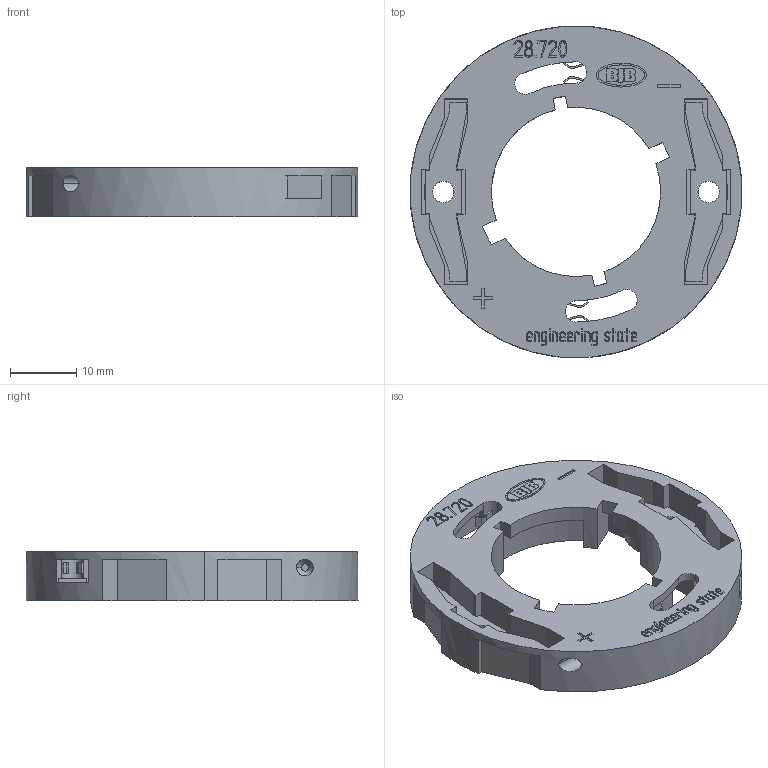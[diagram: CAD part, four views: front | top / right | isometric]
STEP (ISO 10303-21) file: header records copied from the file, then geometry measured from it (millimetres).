
FILE_DESCRIPTION((' '),'1');
FILE_NAME('01VYU06Y01.stp','2014-09-08 T09:01:33',(''),(''),'STEP Interface 2013.192 by CT CoreTechnologie','3D_Evolution2013.192 by CT CoreTechnologie','');
FILE_SCHEMA(('AP203_CONFIGURATION_CONTROLLED_3D_DESIGN_OF_MECHANICAL_PARTS_AND_ASSEMBLIES_MIM_LF'));
Length unit declared in the file: millimetre
Products named in the file (1): 01VYU06Y01
Bounding box: 50 x 50 x 7.45 mm (x, y, z)
Volume: 5025.1 mm3; surface area: 8111.9 mm2
Topology: 1 solids, 1 shells, 602 faces, 1615 edges, 1068 vertices
Faces by surface type: plane 458, cylinder 75, bspline 69
Entity records: 25724 total; most frequent: CARTESIAN_POINT 6055, ORIENTED_EDGE 3230, DIRECTION 2748, EDGE_CURVE 1615, VECTOR 1294, LINE 1294, VERTEX_POINT 1068, AXIS2_PLACEMENT_3D 727
